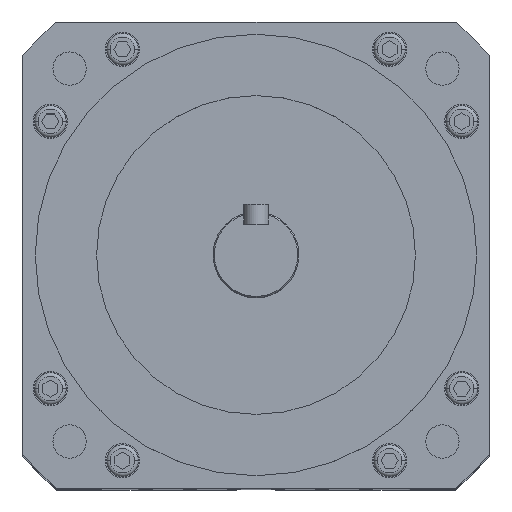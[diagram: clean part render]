
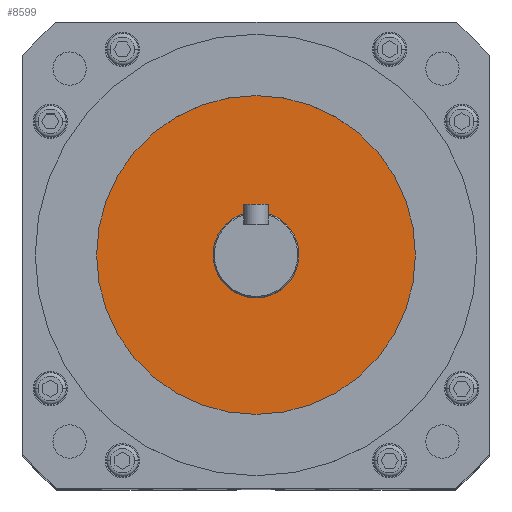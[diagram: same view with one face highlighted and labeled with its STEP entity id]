
A CAD part, top view. The second image highlights one B-rep face of the part: STEP entity #8599.
In plain terms, the highlighted planar face has unit normal (0, 0, 1).
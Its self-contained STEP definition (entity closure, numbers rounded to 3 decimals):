
#40 = CARTESIAN_POINT ( 'NONE',  ( 0., 0., 414. ) ) ;
#685 = CARTESIAN_POINT ( 'NONE',  ( 0., 0., 414. ) ) ;
#742 = EDGE_LOOP ( 'NONE', ( #12170, #14112 ) ) ;
#837 = EDGE_LOOP ( 'NONE', ( #9925, #9999 ) ) ;
#937 = CARTESIAN_POINT ( 'NONE',  ( -17.5, 0., 414. ) ) ;
#1266 = FACE_BOUND ( 'NONE', #837, .T. ) ;
#1314 = CIRCLE ( 'NONE', #1550, 65. ) ;
#1550 = AXIS2_PLACEMENT_3D ( 'NONE', #11036, #11878, #6109 ) ;
#1608 = CIRCLE ( 'NONE', #7920, 65. ) ;
#1683 = EDGE_CURVE ( 'NONE', #5995, #3088, #1314, .T. ) ;
#1758 = VERTEX_POINT ( 'NONE', #7921 ) ;
#1796 = CARTESIAN_POINT ( 'NONE',  ( -65., 0., 414. ) ) ;
#3088 = VERTEX_POINT ( 'NONE', #1796 ) ;
#3353 = CIRCLE ( 'NONE', #4095, 17.5 ) ;
#4055 = AXIS2_PLACEMENT_3D ( 'NONE', #11667, #9377, #14024 ) ;
#4095 = AXIS2_PLACEMENT_3D ( 'NONE', #685, #14448, #13380 ) ;
#5004 = CARTESIAN_POINT ( 'NONE',  ( 0., 0., 414. ) ) ;
#5596 = PLANE ( 'NONE',  #7098 ) ;
#5995 = VERTEX_POINT ( 'NONE', #8774 ) ;
#6109 = DIRECTION ( 'NONE',  ( 1., 0., 0. ) ) ;
#6156 = EDGE_CURVE ( 'NONE', #13505, #1758, #3353, .T. ) ;
#6813 = DIRECTION ( 'NONE',  ( 1., 0., 0. ) ) ;
#7098 = AXIS2_PLACEMENT_3D ( 'NONE', #40, #9089, #6813 ) ;
#7143 = DIRECTION ( 'NONE',  ( 0., 0., 1. ) ) ;
#7691 = CIRCLE ( 'NONE', #4055, 17.5 ) ;
#7920 = AXIS2_PLACEMENT_3D ( 'NONE', #5004, #7143, #9635 ) ;
#7921 = CARTESIAN_POINT ( 'NONE',  ( 17.5, 0., 414. ) ) ;
#8599 = ADVANCED_FACE ( 'NONE', ( #1266, #13952 ), #5596, .T. ) ;
#8774 = CARTESIAN_POINT ( 'NONE',  ( 65., 0., 414. ) ) ;
#9089 = DIRECTION ( 'NONE',  ( 0., 0., 1. ) ) ;
#9377 = DIRECTION ( 'NONE',  ( 0., 0., 1. ) ) ;
#9635 = DIRECTION ( 'NONE',  ( 1., 0., 0. ) ) ;
#9925 = ORIENTED_EDGE ( 'NONE', *, *, #6156, .F. ) ;
#9999 = ORIENTED_EDGE ( 'NONE', *, *, #13315, .F. ) ;
#11036 = CARTESIAN_POINT ( 'NONE',  ( 0., 0., 414. ) ) ;
#11667 = CARTESIAN_POINT ( 'NONE',  ( 0., 0., 414. ) ) ;
#11878 = DIRECTION ( 'NONE',  ( 0., 0., 1. ) ) ;
#12170 = ORIENTED_EDGE ( 'NONE', *, *, #1683, .T. ) ;
#12565 = EDGE_CURVE ( 'NONE', #3088, #5995, #1608, .T. ) ;
#13315 = EDGE_CURVE ( 'NONE', #1758, #13505, #7691, .T. ) ;
#13380 = DIRECTION ( 'NONE',  ( 1., 0., 0. ) ) ;
#13505 = VERTEX_POINT ( 'NONE', #937 ) ;
#13952 = FACE_OUTER_BOUND ( 'NONE', #742, .T. ) ;
#14024 = DIRECTION ( 'NONE',  ( 1., 0., 0. ) ) ;
#14112 = ORIENTED_EDGE ( 'NONE', *, *, #12565, .T. ) ;
#14448 = DIRECTION ( 'NONE',  ( 0., 0., 1. ) ) ;
